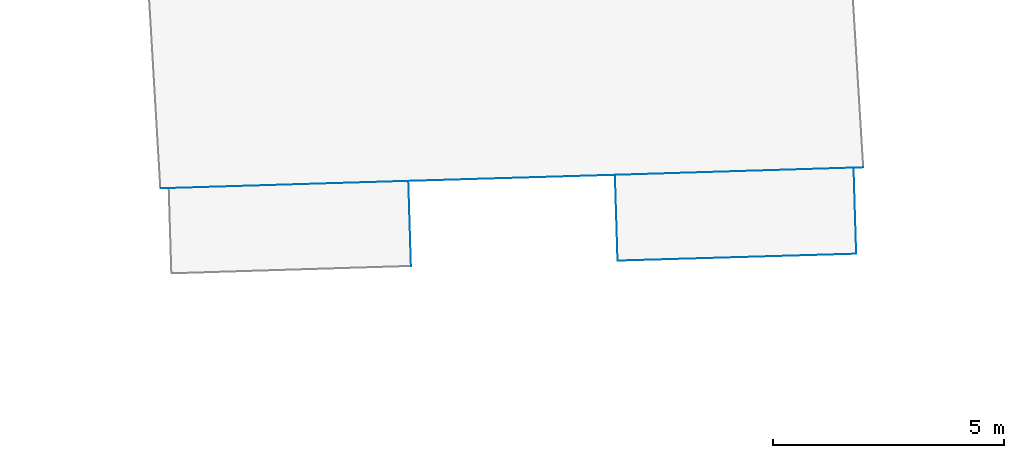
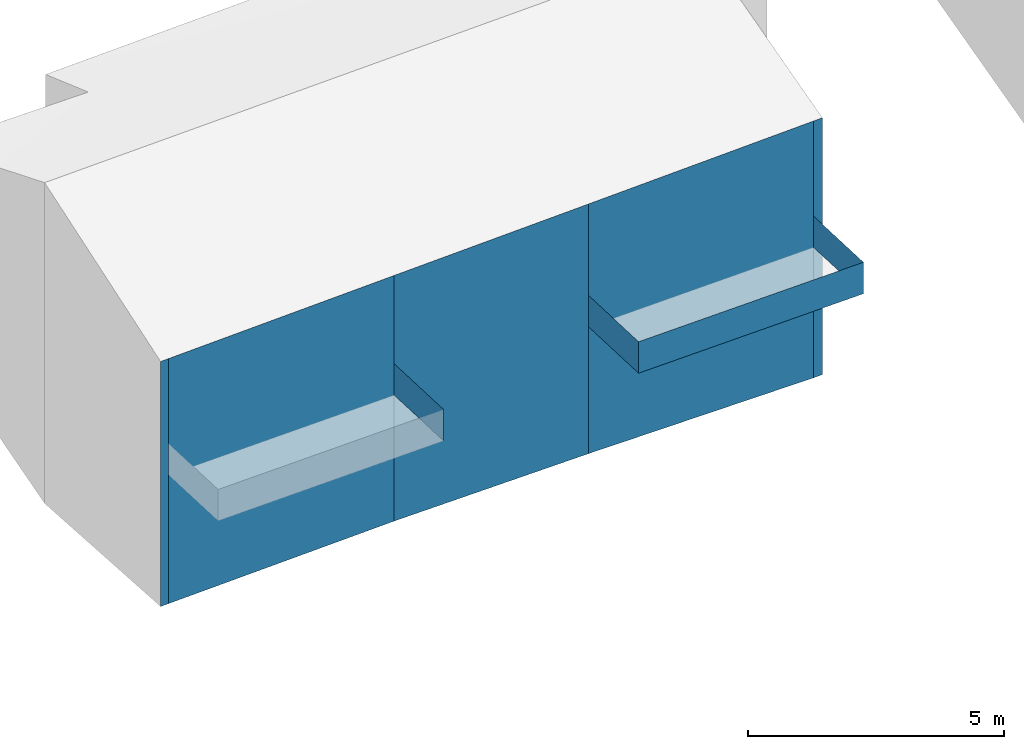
# Not in any storey, part 8 of 57: 13 walls.
"""IFC4 building model written with IfcOpenShell, lengths in metres."""

from ifc_helpers import new_model, entity, si_unit, converted_unit, origin, place, context, subcontext, project, spatial, face_set, surface_model, element, save


model = new_model("IFC4")

# Units and contexts
model_context = context("Model", 3, precision=1e-05, world=origin())
body_context = subcontext(model_context, "Body", "Model", "MODEL_VIEW")
ifc_project = project(units=[converted_unit("PLANEANGLEUNIT", "DEGREE", entity("IfcRatioMeasure", 0.0174532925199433), si_unit("PLANEANGLEUNIT", "RADIAN"), dimensions=[0, 0, 0, 0, 0, 0, 0]), si_unit("AREAUNIT", "SQUARE_METRE"), si_unit("LENGTHUNIT", "METRE")], contexts=[model_context])

# Site, building
site_placement = place(None, origin())
site = spatial("IfcSite", under=ifc_project, at=site_placement, Name="_site")
building_placement = place(site_placement, origin())
building = spatial("IfcBuilding", under=site, at=building_placement, Name="_building")

# Walls
wall_1_placement = place(building_placement, origin())
element("IfcWall", 1, at=wall_1_placement, inside=building, Name="Wall", PredefinedType="NOTDEFINED", context=body_context, shape_type="SurfaceModel", body=[
    surface_model("IfcFaceBasedSurfaceModel", [(189.171, 58.893, 110.783), (188.99, 58.887, 110.78), (188.99, 58.887, 104.938), (189.171, 58.893, 104.939)], [face_set([[[0, 1, 2, 3]]])]),
])
wall_2_placement = place(building_placement, origin())
element("IfcWall", 2, at=wall_2_placement, inside=building, Name="Wall", PredefinedType="NOTDEFINED", context=body_context, shape_type="SurfaceModel", body=[
    surface_model("IfcFaceBasedSurfaceModel", [(194.347, 59.048, 110.858), (189.171, 58.893, 110.783), (189.171, 58.893, 104.939), (194.347, 59.048, 105.0)], [face_set([[[0, 1, 2, 3]]])]),
])
wall_3_placement = place(building_placement, origin())
element("IfcWall", 3, at=wall_3_placement, inside=building, Name="Wall", PredefinedType="NOTDEFINED", context=body_context, shape_type="SurfaceModel", body=[
    surface_model("IfcFaceBasedSurfaceModel", [(198.813, 59.179, 110.922), (194.347, 59.048, 110.858), (194.347, 59.048, 105.0), (198.813, 59.179, 104.968)], [face_set([[[0, 1, 2, 3]]])]),
])
wall_4_placement = place(building_placement, origin())
element("IfcWall", 4, at=wall_4_placement, inside=building, Name="Wall", PredefinedType="NOTDEFINED", context=body_context, shape_type="SurfaceModel", body=[
    surface_model("IfcFaceBasedSurfaceModel", [(204.18, 59.341, 111.0), (203.97, 59.335, 110.997), (203.97, 59.335, 104.873), (204.18, 59.341, 104.875)], [face_set([[[0, 1, 2, 3]]])]),
])
wall_5_placement = place(building_placement, origin())
element("IfcWall", 5, at=wall_5_placement, inside=building, Name="Wall", PredefinedType="NOTDEFINED", context=body_context, shape_type="SurfaceModel", body=[
    surface_model("IfcFaceBasedSurfaceModel", [(203.97, 59.335, 110.997), (198.813, 59.179, 110.922), (198.813, 59.179, 104.968), (203.97, 59.335, 104.873)], [face_set([[[0, 1, 2, 3]]])]),
])
wall_6_placement = place(building_placement, origin())
element("IfcWall", 6, at=wall_6_placement, inside=building, Name="Wall", PredefinedType="NOTDEFINED", context=body_context, shape_type="SurfaceModel", body=[
    surface_model("IfcFaceBasedSurfaceModel", [(194.404, 57.209, 108.01), (194.347, 59.048, 108.01), (194.347, 59.048, 108.76), (194.404, 57.209, 108.76)], [face_set([[[0, 1, 2, 3]]])]),
])
wall_7_placement = place(building_placement, origin())
element("IfcWall", 7, at=wall_7_placement, inside=building, Name="Wall", PredefinedType="NOTDEFINED", context=body_context, shape_type="SurfaceModel", body=[
    surface_model("IfcFaceBasedSurfaceModel", [(198.87, 57.325, 107.99), (204.027, 57.474, 107.99), (204.027, 57.474, 108.74), (198.87, 57.325, 108.74)], [face_set([[[0, 1, 2, 3]]])]),
])
wall_8_placement = place(building_placement, origin())
element("IfcWall", 8, at=wall_8_placement, inside=building, Name="Wall", PredefinedType="NOTDEFINED", context=body_context, shape_type="SurfaceModel", body=[
    surface_model("IfcFaceBasedSurfaceModel", [(204.027, 57.474, 107.99), (203.97, 59.335, 107.99), (203.97, 59.335, 108.74), (204.027, 57.474, 108.74)], [face_set([[[0, 1, 2, 3]]])]),
])
wall_9_placement = place(building_placement, origin())
element("IfcWall", 9, at=wall_9_placement, inside=building, Name="Wall", PredefinedType="NOTDEFINED", context=body_context, shape_type="SurfaceModel", body=[
    surface_model("IfcFaceBasedSurfaceModel", [(198.813, 59.179, 107.99), (198.87, 57.325, 107.99), (198.87, 57.325, 108.74), (198.813, 59.179, 108.74)], [face_set([[[0, 1, 2, 3]]])]),
])
wall_10_placement = place(building_placement, origin())
element("IfcWall", 10, at=wall_10_placement, inside=building, Name="Wall", PredefinedType="NOTDEFINED", context=body_context, shape_type="SurfaceModel", body=[
    surface_model("IfcFaceBasedSurfaceModel", [(194.404, 57.209, 108.01), (194.347, 59.048, 108.01), (194.347, 59.048, 108.76), (194.404, 57.209, 108.76)], [face_set([[[0, 1, 2, 3]]])]),
])
wall_11_placement = place(building_placement, origin())
element("IfcWall", 11, at=wall_11_placement, inside=building, Name="Wall", PredefinedType="NOTDEFINED", context=body_context, shape_type="SurfaceModel", body=[
    surface_model("IfcFaceBasedSurfaceModel", [(204.027, 57.474, 107.99), (203.97, 59.335, 107.99), (203.97, 59.335, 108.74), (204.027, 57.474, 108.74)], [face_set([[[0, 1, 2, 3]]])]),
])
wall_12_placement = place(building_placement, origin())
element("IfcWall", 12, at=wall_12_placement, inside=building, Name="Wall", PredefinedType="NOTDEFINED", context=body_context, shape_type="SurfaceModel", body=[
    surface_model("IfcFaceBasedSurfaceModel", [(198.87, 57.325, 107.99), (204.027, 57.474, 107.99), (204.027, 57.474, 108.74), (198.87, 57.325, 108.74)], [face_set([[[0, 1, 2, 3]]])]),
])
wall_13_placement = place(building_placement, origin())
element("IfcWall", 13, at=wall_13_placement, inside=building, Name="Wall", PredefinedType="NOTDEFINED", context=body_context, shape_type="SurfaceModel", body=[
    surface_model("IfcFaceBasedSurfaceModel", [(198.813, 59.179, 107.99), (198.87, 57.325, 107.99), (198.87, 57.325, 108.74), (198.813, 59.179, 108.74)], [face_set([[[0, 1, 2, 3]]])]),
])

save(model, "model.ifc")
